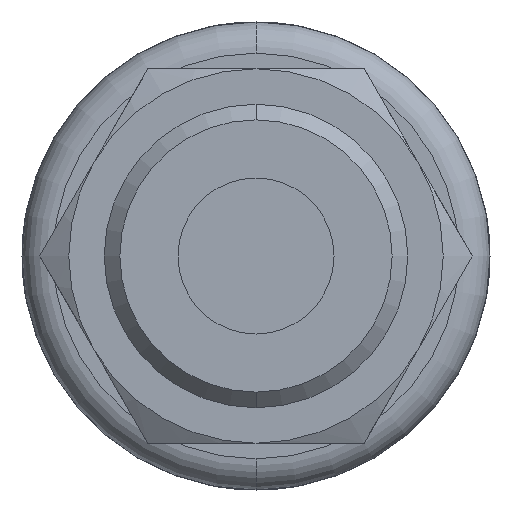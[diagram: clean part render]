
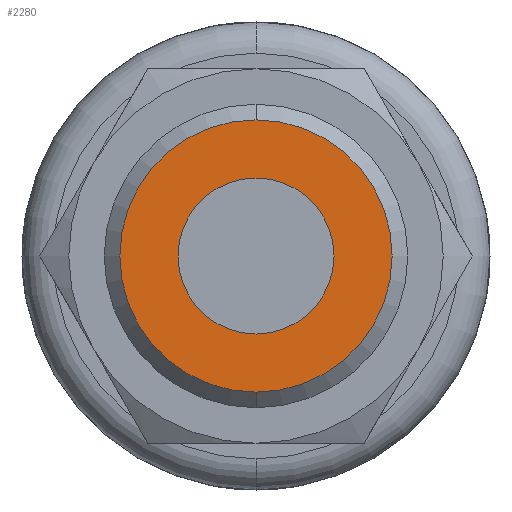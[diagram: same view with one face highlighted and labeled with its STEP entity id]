
A CAD part, front view. The second image highlights one B-rep face of the part: STEP entity #2280.
In plain terms, the highlighted planar face has unit normal (0, -1, 0).
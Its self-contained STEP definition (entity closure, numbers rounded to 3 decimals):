
#65 = ORIENTED_EDGE ( 'NONE', *, *, #3389, .T. ) ;
#193 = EDGE_LOOP ( 'NONE', ( #2425, #65 ) ) ;
#302 = DIRECTION ( 'NONE',  ( 0., 1., 0. ) ) ;
#321 = CARTESIAN_POINT ( 'NONE',  ( 0., 0., 0. ) ) ;
#407 = EDGE_CURVE ( 'NONE', #3580, #3547, #4223, .T. ) ;
#598 = DIRECTION ( 'NONE',  ( 0., 0., -1. ) ) ;
#611 = AXIS2_PLACEMENT_3D ( 'NONE', #1701, #4789, #598 ) ;
#641 = CARTESIAN_POINT ( 'NONE',  ( 0., 0., 0. ) ) ;
#674 = DIRECTION ( 'NONE',  ( 0., 0., -1. ) ) ;
#688 = VERTEX_POINT ( 'NONE', #1984 ) ;
#689 = DIRECTION ( 'NONE',  ( 0., 0., 1. ) ) ;
#691 = CIRCLE ( 'NONE', #4079, 4.364 ) ;
#728 = DIRECTION ( 'NONE',  ( 0., -1., 0. ) ) ;
#1527 = AXIS2_PLACEMENT_3D ( 'NONE', #321, #302, #689 ) ;
#1686 = AXIS2_PLACEMENT_3D ( 'NONE', #641, #1842, #674 ) ;
#1701 = CARTESIAN_POINT ( 'NONE',  ( 0., 0., 0. ) ) ;
#1842 = DIRECTION ( 'NONE',  ( 0., -1., 0. ) ) ;
#1849 = DIRECTION ( 'NONE',  ( 0., 0., 1. ) ) ;
#1870 = CARTESIAN_POINT ( 'NONE',  ( 0., 0., 0. ) ) ;
#1938 = CARTESIAN_POINT ( 'NONE',  ( 0., 0., -4.364 ) ) ;
#1976 = AXIS2_PLACEMENT_3D ( 'NONE', #1870, #728, #4165 ) ;
#1984 = CARTESIAN_POINT ( 'NONE',  ( 0., 0., -2.5 ) ) ;
#2151 = EDGE_CURVE ( 'NONE', #3737, #688, #3975, .T. ) ;
#2269 = DIRECTION ( 'NONE',  ( 0., -1., 0. ) ) ;
#2280 = ADVANCED_FACE ( 'NONE', ( #2456, #4694 ), #4130, .F. ) ;
#2425 = ORIENTED_EDGE ( 'NONE', *, *, #407, .T. ) ;
#2456 = FACE_BOUND ( 'NONE', #4328, .T. ) ;
#2803 = ORIENTED_EDGE ( 'NONE', *, *, #4080, .F. ) ;
#2923 = CARTESIAN_POINT ( 'NONE',  ( 0., 0., 2.5 ) ) ;
#3356 = ORIENTED_EDGE ( 'NONE', *, *, #2151, .F. ) ;
#3389 = EDGE_CURVE ( 'NONE', #3547, #3580, #691, .T. ) ;
#3547 = VERTEX_POINT ( 'NONE', #1938 ) ;
#3580 = VERTEX_POINT ( 'NONE', #3866 ) ;
#3737 = VERTEX_POINT ( 'NONE', #2923 ) ;
#3866 = CARTESIAN_POINT ( 'NONE',  ( 0., 0., 4.364 ) ) ;
#3875 = CIRCLE ( 'NONE', #611, 2.5 ) ;
#3975 = CIRCLE ( 'NONE', #1686, 2.5 ) ;
#4079 = AXIS2_PLACEMENT_3D ( 'NONE', #4581, #2269, #1849 ) ;
#4080 = EDGE_CURVE ( 'NONE', #688, #3737, #3875, .T. ) ;
#4130 = PLANE ( 'NONE',  #1527 ) ;
#4165 = DIRECTION ( 'NONE',  ( 0., 0., 1. ) ) ;
#4223 = CIRCLE ( 'NONE', #1976, 4.364 ) ;
#4328 = EDGE_LOOP ( 'NONE', ( #2803, #3356 ) ) ;
#4581 = CARTESIAN_POINT ( 'NONE',  ( 0., 0., 0. ) ) ;
#4694 = FACE_OUTER_BOUND ( 'NONE', #193, .T. ) ;
#4789 = DIRECTION ( 'NONE',  ( 0., -1., 0. ) ) ;
